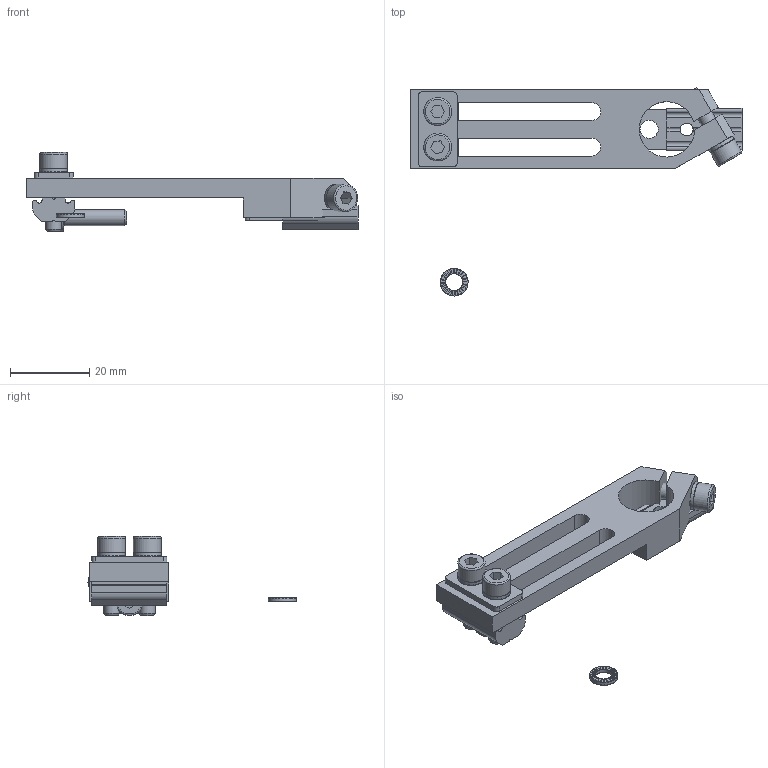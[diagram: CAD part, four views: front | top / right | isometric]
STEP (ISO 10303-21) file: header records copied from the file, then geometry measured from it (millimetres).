
FILE_DESCRIPTION( ( 'STEP AP214' ), '1' );
FILE_NAME( 'C:/Users/Segreteria/Desktop/CA.WSL.1440.U.X.stp', '2014-07-10T09:45:12', ( ' ' ), ( ' ' ), 'XStep 1.0', ' ', ' ' );
FILE_SCHEMA( ( 'CONFIG_CONTROL_DESIGN) ( )' ) );
Length unit declared in the file: metre
Products named in the file (9): Assem1; Assem2; WSL.1440.U; R.4.SCH; V-tcei M  4 x 16; R.04.09; CA.GWP.4.9
Bounding box: 84 x 52.63 x 20 mm (x, y, z)
Volume: 22430.2 mm3; surface area: 20661.6 mm2
Topology: 14 solids, 19 shells, 1234 faces, 3590 edges, 2385 vertices
Faces by surface type: plane 1128, cylinder 85, torus 14, cone 7
Full cylindrical faces by diameter (mm): 3.242 x7, 4 x7, 4.3 x5, 4.5 x3, 4.6 x4, 7 x12
Entity records: 10122 total; most frequent: CARTESIAN_POINT 1786, DIRECTION 1720, ORIENTED_EDGE 1666, EDGE_CURVE 833, AXIS2_PLACEMENT_3D 579, VERTEX_POINT 565, LINE 562, VECTOR 562
